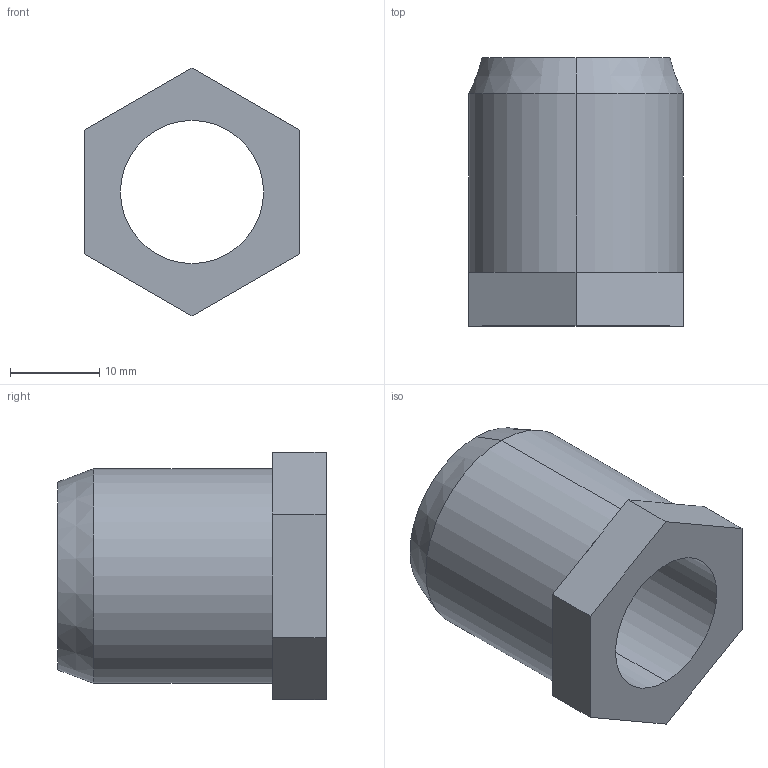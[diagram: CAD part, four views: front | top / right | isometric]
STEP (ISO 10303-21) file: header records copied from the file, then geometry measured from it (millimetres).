
FILE_DESCRIPTION (( 'STEP AP214' ), '1' );
FILE_NAME ('JB-406.step', '2023-12-26T00:49:18', ( 'catia' ), ( 'HP Inc.' ), 'SwSTEP 2.0', 'SolidWorks 2021', '' );
FILE_SCHEMA (( 'AUTOMOTIVE_DESIGN' ));
Length unit declared in the file: millimetre
Products named in the file (1): JB-406
Bounding box: 24 x 30 x 27.71 mm (x, y, z)
Volume: 7601.7 mm3; surface area: 4306.2 mm2
Topology: 1 solids, 1 shells, 20 faces, 46 edges, 28 vertices
Faces by surface type: plane 14, cylinder 4, cone 2
Entity records: 600 total; most frequent: DIRECTION 104, CARTESIAN_POINT 95, ORIENTED_EDGE 92, EDGE_CURVE 46, AXIS2_PLACEMENT_3D 37, LINE 30, VECTOR 30, VERTEX_POINT 28
